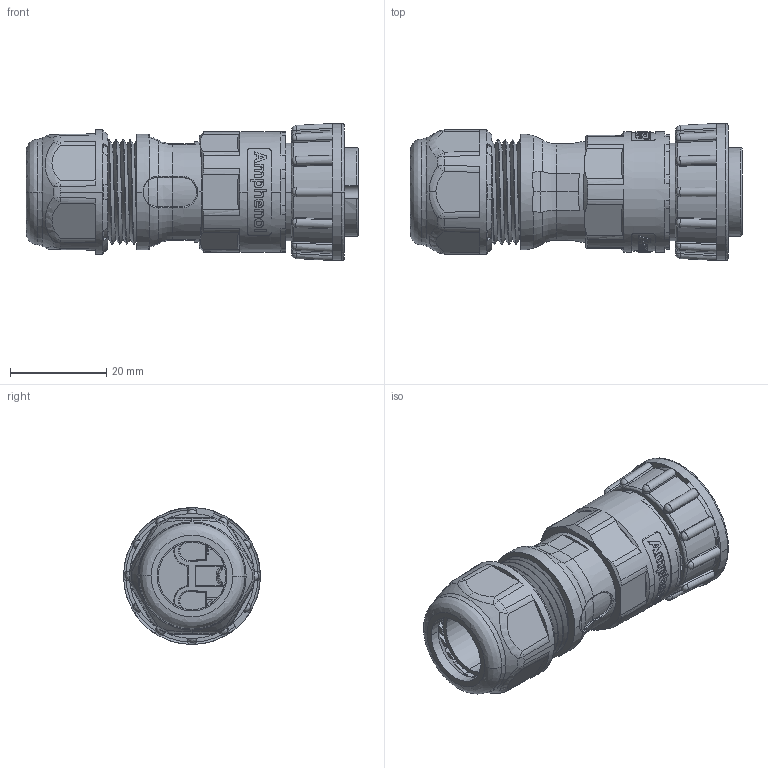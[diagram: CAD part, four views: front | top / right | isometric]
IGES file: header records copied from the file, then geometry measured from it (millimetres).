
Start section:  PTC IGES file: 1dc-02bffb-ll7app.igs
Global section: file name: 1dc-02bffb-ll7app.igs; native system: Creo Parametric by Parametric Technology Corporation; preprocessor: 2017170; author: L210039; organization: Unknown; date: 20211006.164445; units: millimetre
Bounding box: 69.05 x 28.5 x 28.5 mm (x, y, z)
Volume: 18633.5 mm3; surface area: 19237.5 mm2
Topology: 2 solids, 2 shells, 1086 faces, 2984 edges, 1909 vertices
Faces by surface type: bspline 497, revolution 409, extrusion 180
